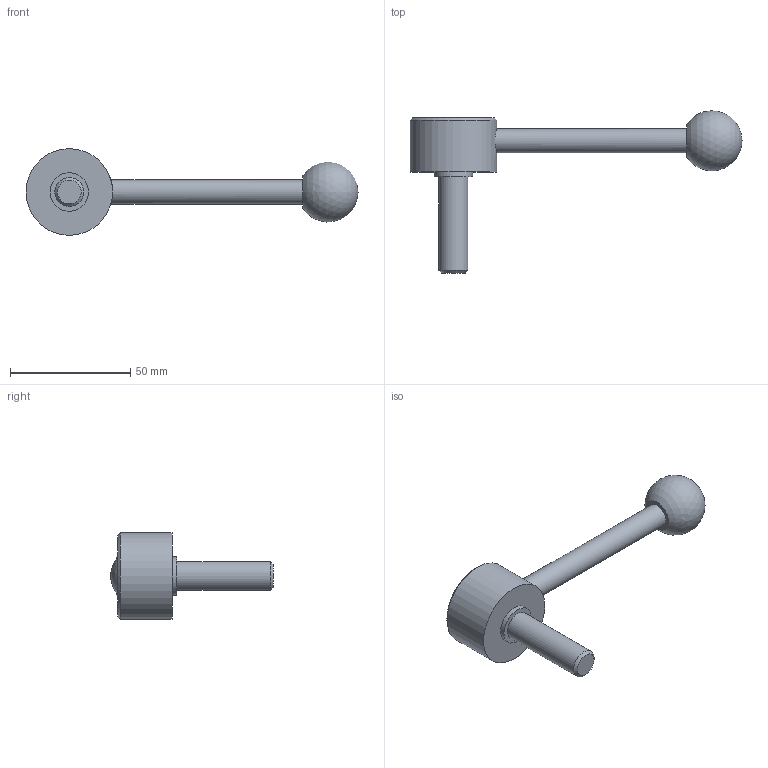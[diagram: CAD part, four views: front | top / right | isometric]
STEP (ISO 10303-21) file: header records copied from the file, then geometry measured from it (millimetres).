
FILE_DESCRIPTION( ( 'STEP AP203' ), '1' );
FILE_NAME( 'C:/Temp/Ganter_Step_05_03_2020/data/2_1/gn_125/gn_125_ms/gn_125_ms_d/Flat Adjustable Lever GN 125-36-M12-40-D.stp', '2020-03-05T11:00:49', ( 'License CC BY-ND 4.0' ), ( 'CADENAS' ), ' ', 'PARTsolutions', ' ' );
FILE_SCHEMA( ( 'CONFIG_CONTROL_DESIGN' ) );
Length unit declared in the file: millimetre
Products named in the file (1): _Flat Adjustable Lever GN 125-36-M12-40-D
Bounding box: 138 x 67.38 x 36 mm (x, y, z)
Volume: 41869.6 mm3; surface area: 10402.5 mm2
Topology: 1 solids, 1 shells, 14 faces, 23 edges, 15 vertices
Faces by surface type: plane 6, cylinder 5, cone 2, sphere 1
Full cylindrical faces by diameter (mm): 10 x1, 12 x1, 16 x1, 26 x1, 36 x1
Entity records: 392 total; most frequent: CARTESIAN_POINT 115, DIRECTION 54, AXIS2_PLACEMENT_3D 27, EDGE_LOOP 26, ORIENTED_EDGE 26, FACE_OUTER_BOUND 19, ADVANCED_FACE 14, VERTEX_POINT 14
